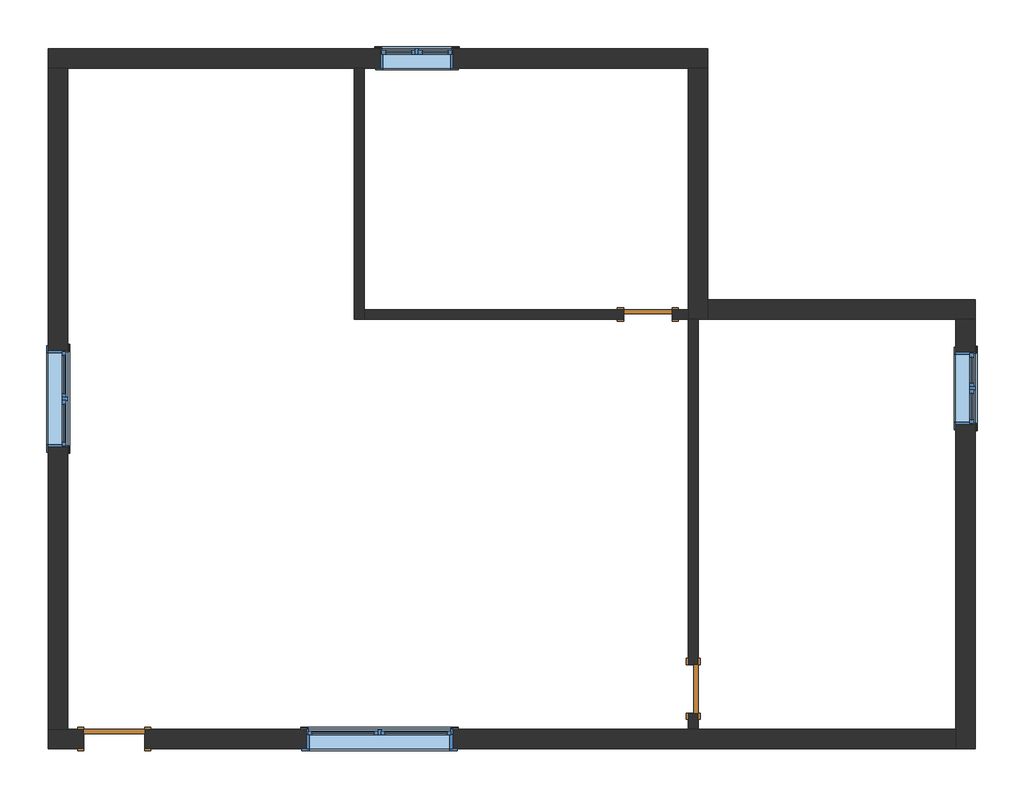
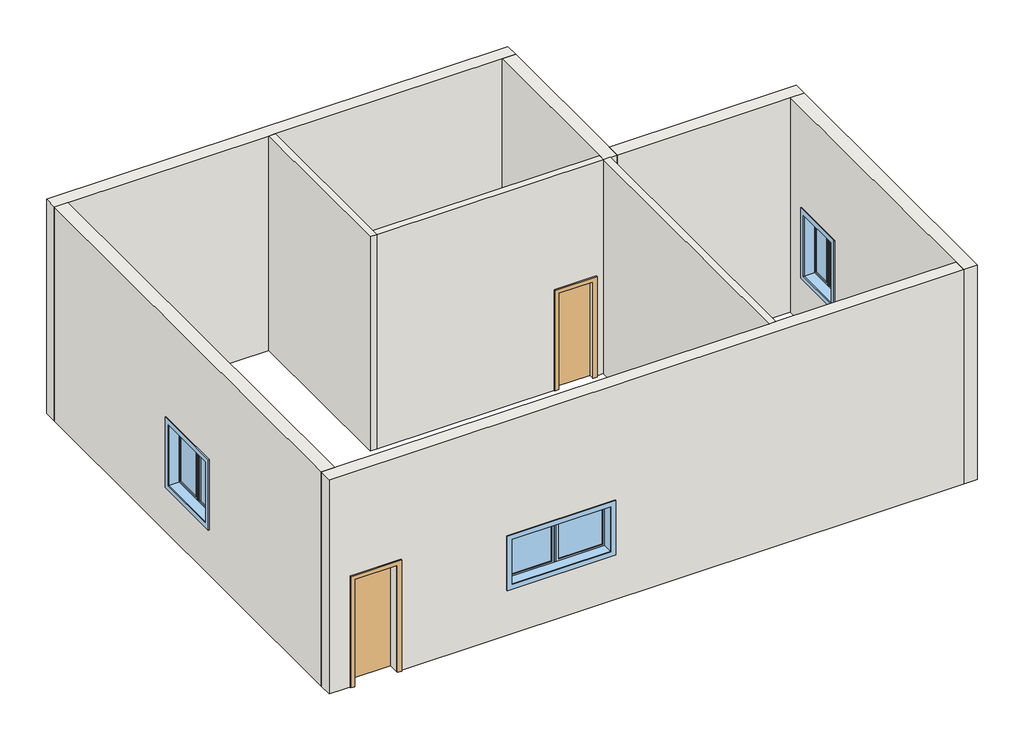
# One storey: 9 walls, 4 windows, 3 doors.
"""IFC4 building model written with IfcOpenShell, lengths in millimetres."""

from ifc_helpers import new_model, si_unit, frame, origin, place, context, project, spatial, polyline, outline, extrude, faceted_brep, transform, mapped, element, save
from components import door_600_x_1800mm_36ab3d57, door_750_x_2000mm_b382c1ce, window_1200_x_1200mm_5d869761, window_1800_x_900mm_8c5bb69c, window_900_x_1200mm_d059c567

model = new_model("IFC4")

# Units and contexts
model_context = context("Model", 3, world=origin())
ifc_project = project(units=[si_unit("LENGTHUNIT", "METRE", prefix="MILLI")], contexts=[model_context])

# Site, building, storey
site = spatial("IfcSite", under=ifc_project)
building = spatial("IfcBuilding", under=site)
storey = spatial("IfcBuildingStorey", under=building, Name="标高 1", Elevation=0.0)

# Doors
placement = place(None, origin())
door_600_x_1800mm_shape = door_600_x_1800mm_36ab3d57(model_context)
element("IfcDoor", 1, ObjectType="单扇 - 与墙齐 : 600 x 1800mm", at=placement, inside=storey, context=model_context, shape_type="MappedRepresentation", body=[
    mapped(door_600_x_1800mm_shape, transform((2183.5829197, -1954.4196922, 0.0), x_axis=(1.0, 0.0, 0.0), y_axis=(0.0, 1.0, 0.0), z_axis=(0.0, 0.0, 1.0))),
])
element("IfcDoor", 2, ObjectType="单扇 - 与墙齐 : 600 x 1800mm", at=placement, inside=storey, context=model_context, shape_type="MappedRepresentation", body=[
    mapped(door_600_x_1800mm_shape, transform((2743.5829197, -6574.4196922, 0.0), x_axis=(0.0, -1.0, 0.0), y_axis=(1.0, 0.0, 0.0), z_axis=(0.0, 0.0, 1.0))),
])
door_750_x_2000mm_shape = door_750_x_2000mm_b382c1ce(model_context)
element("IfcDoor", 3, ObjectType="单扇 - 与墙齐 : 750 x 2000mm", at=placement, inside=storey, context=model_context, shape_type="MappedRepresentation", body=[
    mapped(door_750_x_2000mm_shape, transform((-4401.4170803, -7194.4196922, 0.0), x_axis=(-1.0, 0.0, 0.0), y_axis=(0.0, -1.0, 0.0), z_axis=(0.0, 0.0, 1.0))),
])

# Walls
element("IfcWall", 4, ObjectType="120mm", at=placement, inside=storey, context=model_context, shape_type="Brep", body=[
    faceted_brep([(-1436.4170803, 1085.5803078, 0.0), (-1436.4170803, -2014.4196922, 0.0), (-1436.4170803, -2014.4196922, 4000.0), (-1436.4170803, 1085.5803078, 4000.0), (-1316.4170803, 1085.5803078, 0.0), (-1316.4170803, 1085.5803078, 4000.0), (-1316.4170803, -1894.4196922, 4000.0), (-1316.4170803, -2014.4196922, 4000.0), (-1316.4170803, -2014.4196922, 0.0), (-1316.4170803, -1894.4196922, 0.0)], [[[0, 1, 2, 3]], [[4, 5, 6, 7, 8, 9]], [[1, 0, 4, 9, 8]], [[3, 2, 7, 6, 5]], [[0, 3, 5, 4]], [[2, 1, 8, 7]]]),
])
element("IfcWall", 5, ObjectType="120mm", at=placement, inside=storey, context=model_context, shape_type="SweptSolid", body=[
    extrude(outline(polyline([(1800.0, 2483.5829197), (0.0, 2483.5829197), (0.0, 2683.5829197), (4000.0, 2683.5829197), (4000.0, -1316.4170803), (0.0, -1316.4170803), (0.0, 1883.5829197), (1800.0, 1883.5829197), (1800.0, 2483.5829197)])), frame((0.0, -2014.4196922, 0.0), z_axis=(0.0, 1.0, 0.0), x_axis=(0.0, 0.0, 1.0)), (0.0, 0.0, 1.0), 120.0),
])
element("IfcWall", 6, ObjectType="120mm", at=placement, inside=storey, context=model_context, shape_type="SweptSolid", body=[
    extrude(outline(polyline([(-6874.4196922, 1800.0), (-6874.4196922, 0.0), (-7074.4196922, 0.0), (-7074.4196922, 4000.0), (-2014.4196922, 4000.0), (-2014.4196922, 0.0), (-6274.4196922, 0.0), (-6274.4196922, 1800.0), (-6874.4196922, 1800.0)])), frame((2683.5829197, 0.0, 0.0), z_axis=(1.0, 0.0, 0.0), x_axis=(0.0, 1.0, 0.0)), (0.0, 0.0, 1.0), 120.0),
])
element("IfcWall", 7, ObjectType="240mm", at=placement, inside=storey, context=model_context, shape_type="Brep", body=[
    faceted_brep([(-5216.4170803, 1085.5803078, 0.0), (-4976.4170803, 1085.5803078, 0.0), (-1436.4170803, 1085.5803078, 0.0), (-1316.4170803, 1085.5803078, 0.0), (2683.5829197, 1085.5803078, 0.0), (2923.5829197, 1085.5803078, 0.0), (2923.5829197, 1085.5803078, 4000.0), (2683.5829197, 1085.5803078, 4000.0), (-1316.4170803, 1085.5803078, 4000.0), (-1436.4170803, 1085.5803078, 4000.0), (-4976.4170803, 1085.5803078, 4000.0), (-5216.4170803, 1085.5803078, 4000.0), (-216.4170803, 1085.5803078, 2100.0), (-216.4170803, 1085.5803078, 900.0), (-1116.4170803, 1085.5803078, 900.0), (-1116.4170803, 1085.5803078, 2100.0), (-5216.4170803, 1325.5803078, 0.0), (-5216.4170803, 1325.5803078, 4000.0), (2923.5829197, 1325.5803078, 4000.0), (2923.5829197, 1325.5803078, 0.0), (-216.4170803, 1325.5803078, 2100.0), (-1116.4170803, 1325.5803078, 2100.0), (-1116.4170803, 1325.5803078, 900.0), (-216.4170803, 1325.5803078, 900.0)], [[[0, 1, 2, 3, 4, 5, 6, 7, 8, 9, 10, 11], [12, 13, 14, 15]], [[16, 17, 18, 19], [20, 21, 22, 23]], [[5, 4, 3, 2, 1, 0, 16, 19]], [[11, 10, 9, 8, 7, 6, 18, 17]], [[6, 5, 19, 18]], [[0, 11, 17, 16]], [[13, 12, 20, 23]], [[14, 13, 23, 22]], [[15, 14, 22, 21]], [[12, 15, 21, 20]]]),
])
element("IfcWall", 8, ObjectType="240mm", at=placement, inside=storey, context=model_context, shape_type="Brep", body=[
    faceted_brep([(2683.5829197, 1085.5803078, 0.0), (2683.5829197, -1894.4196922, 0.0), (2683.5829197, -2014.4196922, 0.0), (2683.5829197, -2014.4196922, 4000.0), (2683.5829197, -1894.4196922, 4000.0), (2683.5829197, 1085.5803078, 4000.0), (2923.5829197, 1085.5803078, 0.0), (2923.5829197, 1085.5803078, 4000.0), (2923.5829197, -1774.4196922, 4000.0), (2923.5829197, -2014.4196922, 4000.0), (2923.5829197, -2014.4196922, 0.0), (2923.5829197, -1774.4196922, 0.0)], [[[0, 1, 2, 3, 4, 5]], [[6, 7, 8, 9, 10, 11]], [[2, 1, 0, 6, 11, 10]], [[5, 4, 3, 9, 8, 7]], [[0, 5, 7, 6]], [[3, 2, 10, 9]]]),
])
element("IfcWall", 9, ObjectType="240mm", at=placement, inside=storey, context=model_context, shape_type="Brep", body=[
    faceted_brep([(2923.5829197, -2014.4196922, 0.0), (5983.5829197, -2014.4196922, 0.0), (6223.5829197, -2014.4196922, 0.0), (6223.5829197, -2014.4196922, 4000.0), (5983.5829197, -2014.4196922, 4000.0), (2923.5829197, -2014.4196922, 4000.0), (2923.5829197, -1774.4196922, 0.0), (2923.5829197, -1774.4196922, 4000.0), (6223.5829197, -1774.4196922, 4000.0), (6223.5829197, -1774.4196922, 0.0)], [[[0, 1, 2, 3, 4, 5]], [[6, 7, 8, 9]], [[2, 1, 0, 6, 9]], [[5, 4, 3, 8, 7]], [[0, 5, 7, 6]], [[3, 2, 9, 8]]]),
])
element("IfcWall", 10, ObjectType="240mm", at=placement, inside=storey, context=model_context, shape_type="Brep", body=[
    faceted_brep([(5983.5829197, -2014.4196922, 0.0), (5983.5829197, -7074.4196922, 0.0), (5983.5829197, -7314.4196922, 0.0), (5983.5829197, -7314.4196922, 4000.0), (5983.5829197, -7074.4196922, 4000.0), (5983.5829197, -2014.4196922, 4000.0), (5983.5829197, -3314.4196922, 2100.0), (5983.5829197, -3314.4196922, 900.0), (5983.5829197, -2414.4196922, 900.0), (5983.5829197, -2414.4196922, 2100.0), (6223.5829197, -2014.4196922, 0.0), (6223.5829197, -2014.4196922, 4000.0), (6223.5829197, -7314.4196922, 4000.0), (6223.5829197, -7314.4196922, 0.0), (6223.5829197, -3314.4196922, 2100.0), (6223.5829197, -2414.4196922, 2100.0), (6223.5829197, -2414.4196922, 900.0), (6223.5829197, -3314.4196922, 900.0)], [[[0, 1, 2, 3, 4, 5], [6, 7, 8, 9]], [[10, 11, 12, 13], [14, 15, 16, 17]], [[2, 1, 0, 10, 13]], [[5, 4, 3, 12, 11]], [[0, 5, 11, 10]], [[3, 2, 13, 12]], [[7, 6, 14, 17]], [[8, 7, 17, 16]], [[9, 8, 16, 15]], [[6, 9, 15, 14]]]),
])
element("IfcWall", 11, ObjectType="240mm", at=placement, inside=storey, context=model_context, shape_type="Brep", body=[
    faceted_brep([(-4776.4170803, -7074.4196922, 2000.0), (-4776.4170803, -7074.4196922, 0.0), (-4976.4170803, -7074.4196922, 0.0), (-5216.4170803, -7074.4196922, 0.0), (-5216.4170803, -7074.4196922, 4000.0), (-4976.4170803, -7074.4196922, 4000.0), (2683.5829197, -7074.4196922, 4000.0), (2803.5829197, -7074.4196922, 4000.0), (5983.5829197, -7074.4196922, 4000.0), (5983.5829197, -7074.4196922, 0.0), (2803.5829197, -7074.4196922, 0.0), (2683.5829197, -7074.4196922, 0.0), (-4026.4170803, -7074.4196922, 0.0), (-4026.4170803, -7074.4196922, 2000.0), (-226.4170803, -7074.4196922, 1800.0), (-2026.4170803, -7074.4196922, 1800.0), (-2026.4170803, -7074.4196922, 900.0), (-226.4170803, -7074.4196922, 900.0), (-5216.4170803, -7314.4196922, 0.0), (-4776.4170803, -7314.4196922, 0.0), (-4776.4170803, -7314.4196922, 2000.0), (-4026.4170803, -7314.4196922, 2000.0), (-4026.4170803, -7314.4196922, 0.0), (5983.5829197, -7314.4196922, 0.0), (5983.5829197, -7314.4196922, 4000.0), (-5216.4170803, -7314.4196922, 4000.0), (-226.4170803, -7314.4196922, 1800.0), (-226.4170803, -7314.4196922, 900.0), (-2026.4170803, -7314.4196922, 900.0), (-2026.4170803, -7314.4196922, 1800.0)], [[[0, 1, 2, 3, 4, 5, 6, 7, 8, 9, 10, 11, 12, 13], [14, 15, 16, 17]], [[18, 19, 20, 21, 22, 23, 24, 25], [26, 27, 28, 29]], [[3, 2, 1, 19, 18]], [[12, 11, 10, 9, 23, 22]], [[8, 7, 6, 5, 4, 25, 24]], [[9, 8, 24, 23]], [[4, 3, 18, 25]], [[20, 19, 1, 0]], [[21, 20, 0, 13]], [[22, 21, 13, 12]], [[27, 26, 14, 17]], [[28, 27, 17, 16]], [[29, 28, 16, 15]], [[26, 29, 15, 14]]]),
])
element("IfcWall", 12, ObjectType="240mm", at=placement, inside=storey, context=model_context, shape_type="SweptSolid", body=[
    extrude(outline(polyline([(-7074.4196922, 0.0), (-7074.4196922, 4000.0), (1085.5803078, 4000.0), (1085.5803078, 0.0), (-7074.4196922, 0.0)]), holes=[polyline([(-3594.4196922, 2100.0), (-3594.4196922, 900.0), (-2394.4196922, 900.0), (-2394.4196922, 2100.0), (-3594.4196922, 2100.0)])]), frame((-5216.4170803, 0.0, 0.0), z_axis=(1.0, 0.0, 0.0), x_axis=(0.0, 1.0, 0.0)), (0.0, 0.0, 1.0), 240.0),
])

# Windows
window_1200_x_1200mm_shape = window_1200_x_1200mm_5d869761(model_context)
element("IfcWindow", 13, ObjectType="双扇平开 - 带贴面 : 1200 x 1200mm", at=placement, inside=storey, context=model_context, shape_type="MappedRepresentation", body=[
    mapped(window_1200_x_1200mm_shape, transform((-5096.4170803, -2994.4196922, -1.0), x_axis=(0.0, -1.0, 0.0), y_axis=(1.0, 0.0, 0.0), z_axis=(0.0, 0.0, 1.0))),
])
window_1800_x_900mm_shape = window_1800_x_900mm_8c5bb69c(model_context)
element("IfcWindow", 14, ObjectType="双扇平开 - 带贴面 : 1800 x 900mm", at=placement, inside=storey, context=model_context, shape_type="MappedRepresentation", body=[
    mapped(window_1800_x_900mm_shape, transform((-1126.4170803, -7194.4196922, -1.0), x_axis=(1.0, 0.0, 0.0), y_axis=(0.0, 1.0, 0.0), z_axis=(0.0, 0.0, 1.0))),
])
window_900_x_1200mm_shape = window_900_x_1200mm_d059c567(model_context)
element("IfcWindow", 15, ObjectType="双扇平开 - 带贴面 : 900 x 1200mm", at=placement, inside=storey, context=model_context, shape_type="MappedRepresentation", body=[
    mapped(window_900_x_1200mm_shape, transform((6103.5829197, -2864.4196922, -1.0), x_axis=(0.0, -1.0, 0.0), y_axis=(1.0, 0.0, 0.0), z_axis=(0.0, 0.0, 1.0))),
])
element("IfcWindow", 16, ObjectType="双扇平开 - 带贴面 : 900 x 1200mm", at=placement, inside=storey, context=model_context, shape_type="MappedRepresentation", body=[
    mapped(window_900_x_1200mm_shape, transform((-666.4170803, 1205.5803078, -1.0), x_axis=(1.0, 0.0, 0.0), y_axis=(0.0, 1.0, 0.0), z_axis=(0.0, 0.0, 1.0))),
])

save(model, "model.ifc")
